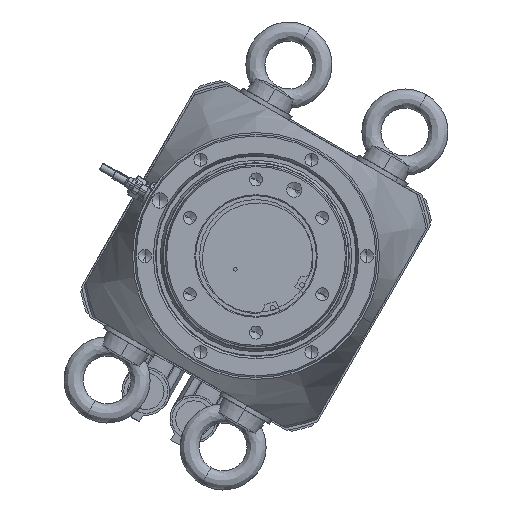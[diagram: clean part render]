
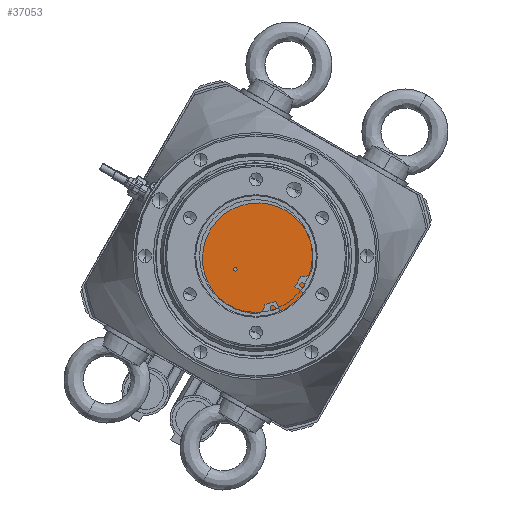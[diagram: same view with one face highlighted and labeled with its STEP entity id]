
A CAD part, front view. The second image highlights one B-rep face of the part: STEP entity #37053.
In plain terms, the highlighted planar face has unit normal (0, -1, 0).
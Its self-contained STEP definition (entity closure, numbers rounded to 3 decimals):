
#5236 = VERTEX_POINT ( 'NONE', #11811 ) ;
#5341 = EDGE_CURVE ( 'NONE', #5236, #29370, #17200, .T. ) ;
#7374 = CARTESIAN_POINT ( 'NONE',  ( -27.356, -709.192, 0. ) ) ;
#7558 = ORIENTED_EDGE ( 'NONE', *, *, #24828, .T. ) ;
#9278 = DIRECTION ( 'NONE',  ( 1., 0., 0. ) ) ;
#11811 = CARTESIAN_POINT ( 'NONE',  ( -37.183, -709.192, -6.941 ) ) ;
#12141 = CARTESIAN_POINT ( 'NONE',  ( -27.356, -709.192, 0. ) ) ;
#12389 = DIRECTION ( 'NONE',  ( 1., 0., 0. ) ) ;
#12488 = CIRCLE ( 'NONE', #40902, 1. ) ;
#12604 = CIRCLE ( 'NONE', #17458, 31.5 ) ;
#12711 = FACE_BOUND ( 'NONE', #17529, .T. ) ;
#13673 = VERTEX_POINT ( 'NONE', #35305 ) ;
#13772 = CARTESIAN_POINT ( 'NONE',  ( 4.144, -709.192, 0. ) ) ;
#17200 = CIRCLE ( 'NONE', #45634, 1. ) ;
#17458 = AXIS2_PLACEMENT_3D ( 'NONE', #12141, #47755, #12389 ) ;
#17529 = EDGE_LOOP ( 'NONE', ( #7558, #43305 ) ) ;
#18677 = VERTEX_POINT ( 'NONE', #13772 ) ;
#21496 = CARTESIAN_POINT ( 'NONE',  ( -38.183, -709.192, -6.941 ) ) ;
#22062 = CARTESIAN_POINT ( 'NONE',  ( -39.183, -709.192, -6.941 ) ) ;
#22157 = DIRECTION ( 'NONE',  ( 1., 0., 0. ) ) ;
#22283 = DIRECTION ( 'NONE',  ( 0., 1., 0. ) ) ;
#23875 = CARTESIAN_POINT ( 'NONE',  ( -27.356, -709.192, 0. ) ) ;
#24828 = EDGE_CURVE ( 'NONE', #29370, #5236, #12488, .T. ) ;
#27062 = ORIENTED_EDGE ( 'NONE', *, *, #33090, .F. ) ;
#28068 = EDGE_CURVE ( 'NONE', #13673, #18677, #44566, .T. ) ;
#28124 = PLANE ( 'NONE',  #49812 ) ;
#28630 = FACE_OUTER_BOUND ( 'NONE', #35337, .T. ) ;
#29370 = VERTEX_POINT ( 'NONE', #22062 ) ;
#33090 = EDGE_CURVE ( 'NONE', #18677, #13673, #12604, .T. ) ;
#33596 = DIRECTION ( 'NONE',  ( 0., 1., 0. ) ) ;
#35305 = CARTESIAN_POINT ( 'NONE',  ( -58.856, -709.192, 0. ) ) ;
#35337 = EDGE_LOOP ( 'NONE', ( #42570, #27062 ) ) ;
#35564 = AXIS2_PLACEMENT_3D ( 'NONE', #23875, #44103, #9278 ) ;
#37053 = ADVANCED_FACE ( 'NONE', ( #28630, #12711 ), #28124, .F. ) ;
#40902 = AXIS2_PLACEMENT_3D ( 'NONE', #21496, #48566, #48797 ) ;
#41683 = DIRECTION ( 'NONE',  ( 1., 0., 0. ) ) ;
#42570 = ORIENTED_EDGE ( 'NONE', *, *, #28068, .F. ) ;
#43305 = ORIENTED_EDGE ( 'NONE', *, *, #5341, .T. ) ;
#44103 = DIRECTION ( 'NONE',  ( 0., 1., 0. ) ) ;
#44566 = CIRCLE ( 'NONE', #35564, 31.5 ) ;
#45634 = AXIS2_PLACEMENT_3D ( 'NONE', #49460, #33596, #22157 ) ;
#47755 = DIRECTION ( 'NONE',  ( 0., 1., 0. ) ) ;
#48566 = DIRECTION ( 'NONE',  ( 0., 1., 0. ) ) ;
#48797 = DIRECTION ( 'NONE',  ( 1., 0., 0. ) ) ;
#49460 = CARTESIAN_POINT ( 'NONE',  ( -38.183, -709.192, -6.941 ) ) ;
#49812 = AXIS2_PLACEMENT_3D ( 'NONE', #7374, #22283, #41683 ) ;
